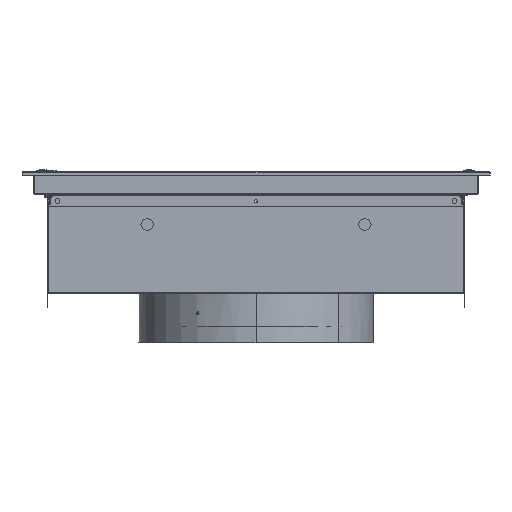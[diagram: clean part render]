
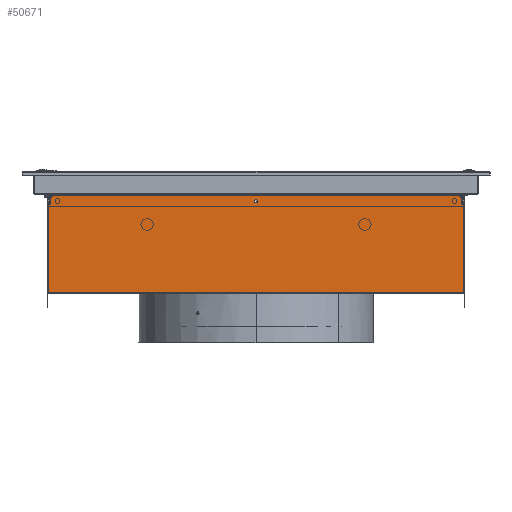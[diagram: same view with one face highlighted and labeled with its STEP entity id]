
A CAD part, left-side view. The second image highlights one B-rep face of the part: STEP entity #50671.
In plain terms, the highlighted planar face has unit normal (-1, 0, 0).
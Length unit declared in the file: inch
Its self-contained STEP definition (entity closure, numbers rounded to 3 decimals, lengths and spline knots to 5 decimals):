
#150 = DIRECTION ( 'NONE',  ( -1., 0., 0. ) ) ;
#936 = CARTESIAN_POINT ( 'NONE',  ( -22.56225, -10.52225, -6.137 ) ) ;
#1143 = DIRECTION ( 'NONE',  ( 0., 0., -1. ) ) ;
#1144 = VERTEX_POINT ( 'NONE', #40206 ) ;
#1209 = VERTEX_POINT ( 'NONE', #21803 ) ;
#1437 = CARTESIAN_POINT ( 'NONE',  ( -22.56225, 10.52225, -1.45921 ) ) ;
#3431 = AXIS2_PLACEMENT_3D ( 'NONE', #19754, #49944, #50220 ) ;
#3512 = EDGE_CURVE ( 'NONE', #45460, #9339, #53923, .T. ) ;
#3573 = LINE ( 'NONE', #33762, #14938 ) ;
#3575 = FACE_OUTER_BOUND ( 'NONE', #22825, .T. ) ;
#3891 = DIRECTION ( 'NONE',  ( 0., 0., -1. ) ) ;
#4131 = CARTESIAN_POINT ( 'NONE',  ( -22.56225, 0.075, -1.5796 ) ) ;
#5158 = VECTOR ( 'NONE', #54394, 39.37008 ) ;
#5358 = EDGE_CURVE ( 'NONE', #48227, #45460, #56699, .T. ) ;
#5460 = DIRECTION ( 'NONE',  ( -1., 0., 0. ) ) ;
#6018 = VERTEX_POINT ( 'NONE', #53090 ) ;
#6365 = DIRECTION ( 'NONE',  ( 0., 0., -1. ) ) ;
#6394 = VERTEX_POINT ( 'NONE', #43232 ) ;
#6458 = VERTEX_POINT ( 'NONE', #48118 ) ;
#6688 = ORIENTED_EDGE ( 'NONE', *, *, #24828, .T. ) ;
#7046 = PLANE ( 'NONE',  #12163 ) ;
#9113 = CIRCLE ( 'NONE', #50435, 0.015 ) ;
#9339 = VERTEX_POINT ( 'NONE', #1437 ) ;
#9668 = CIRCLE ( 'NONE', #17034, 0.015 ) ;
#9848 = ORIENTED_EDGE ( 'NONE', *, *, #46631, .T. ) ;
#9946 = LINE ( 'NONE', #40139, #16849 ) ;
#10129 = LINE ( 'NONE', #936, #5158 ) ;
#10694 = CARTESIAN_POINT ( 'NONE',  ( -22.56225, 0., -1.5046 ) ) ;
#10781 = VERTEX_POINT ( 'NONE', #51064 ) ;
#11036 = VERTEX_POINT ( 'NONE', #37126 ) ;
#11650 = ORIENTED_EDGE ( 'NONE', *, *, #15547, .T. ) ;
#11658 = CARTESIAN_POINT ( 'NONE',  ( -22.56225, 0., 0. ) ) ;
#12091 = EDGE_CURVE ( 'NONE', #27830, #44387, #9668, .T. ) ;
#12163 = AXIS2_PLACEMENT_3D ( 'NONE', #11658, #56216, #42118 ) ;
#12222 = LINE ( 'NONE', #38370, #49372 ) ;
#12793 = EDGE_CURVE ( 'NONE', #15099, #1209, #51025, .T. ) ;
#13140 = CIRCLE ( 'NONE', #21377, 0.015 ) ;
#13375 = DIRECTION ( 'NONE',  ( -1., 0., 0. ) ) ;
#13382 = LINE ( 'NONE', #4131, #53118 ) ;
#14260 = DIRECTION ( 'NONE',  ( 0., 0., 1. ) ) ;
#14608 = AXIS2_PLACEMENT_3D ( 'NONE', #10694, #37690, #6365 ) ;
#14938 = VECTOR ( 'NONE', #34044, 39.37008 ) ;
#15099 = VERTEX_POINT ( 'NONE', #32133 ) ;
#15534 = ORIENTED_EDGE ( 'NONE', *, *, #22654, .T. ) ;
#15547 = EDGE_CURVE ( 'NONE', #34010, #9339, #13140, .T. ) ;
#16849 = VECTOR ( 'NONE', #52809, 39.37008 ) ;
#17020 = EDGE_CURVE ( 'NONE', #1144, #44387, #3573, .T. ) ;
#17034 = AXIS2_PLACEMENT_3D ( 'NONE', #43307, #30336, #3891 ) ;
#17318 = CARTESIAN_POINT ( 'NONE',  ( -22.56225, 10.56225, -6.137 ) ) ;
#17699 = DIRECTION ( 'NONE',  ( 0., 1., 0. ) ) ;
#18873 = CARTESIAN_POINT ( 'NONE',  ( -22.56225, 0.075, -1.5046 ) ) ;
#18889 = CIRCLE ( 'NONE', #53781, 0.015 ) ;
#19601 = ORIENTED_EDGE ( 'NONE', *, *, #17020, .F. ) ;
#19754 = CARTESIAN_POINT ( 'NONE',  ( -22.56225, 0., -1.091 ) ) ;
#19866 = CARTESIAN_POINT ( 'NONE',  ( -22.56225, -10.27664, -1.20739 ) ) ;
#21084 = CARTESIAN_POINT ( 'NONE',  ( -22.56225, 0.075, -1.5796 ) ) ;
#21377 = AXIS2_PLACEMENT_3D ( 'NONE', #52757, #13375, #52451 ) ;
#21475 = ORIENTED_EDGE ( 'NONE', *, *, #27475, .T. ) ;
#21803 = CARTESIAN_POINT ( 'NONE',  ( -22.56225, 0.015, -1.203 ) ) ;
#22408 = EDGE_CURVE ( 'NONE', #6458, #27830, #43910, .T. ) ;
#22654 = EDGE_CURVE ( 'NONE', #50487, #34010, #12222, .T. ) ;
#22825 = EDGE_LOOP ( 'NONE', ( #19601, #37889, #33327, #27210, #6688, #15534, #11650, #40952, #44585, #27156, #50246, #44760, #27843 ) ) ;
#23153 = DIRECTION ( 'NONE',  ( 0., 0., 1. ) ) ;
#23619 = VECTOR ( 'NONE', #32325, 39.37008 ) ;
#24828 = EDGE_CURVE ( 'NONE', #36815, #50487, #9113, .T. ) ;
#25428 = EDGE_CURVE ( 'NONE', #1144, #15099, #40382, .T. ) ;
#26034 = DIRECTION ( 'NONE',  ( 0., 0., -1. ) ) ;
#26699 = EDGE_LOOP ( 'NONE', ( #36059, #9848, #34577, #21475 ) ) ;
#26885 = CARTESIAN_POINT ( 'NONE',  ( -22.56225, -10.50725, -1.45921 ) ) ;
#27156 = ORIENTED_EDGE ( 'NONE', *, *, #54947, .T. ) ;
#27210 = ORIENTED_EDGE ( 'NONE', *, *, #39799, .F. ) ;
#27475 = EDGE_CURVE ( 'NONE', #11036, #54924, #13382, .T. ) ;
#27830 = VERTEX_POINT ( 'NONE', #19866 ) ;
#27843 = ORIENTED_EDGE ( 'NONE', *, *, #12091, .T. ) ;
#29005 = CARTESIAN_POINT ( 'NONE',  ( -22.56225, -10.52225, -6.137 ) ) ;
#30322 = LINE ( 'NONE', #56531, #54505 ) ;
#30336 = DIRECTION ( 'NONE',  ( -1., 0., 0. ) ) ;
#31209 = LINE ( 'NONE', #18873, #47270 ) ;
#31232 = CARTESIAN_POINT ( 'NONE',  ( -22.56225, 10.27664, -1.20739 ) ) ;
#31887 = CARTESIAN_POINT ( 'NONE',  ( -22.56225, -10.26604, -1.203 ) ) ;
#32133 = CARTESIAN_POINT ( 'NONE',  ( -22.56225, 0., -1.204 ) ) ;
#32325 = DIRECTION ( 'NONE',  ( 0., 0.707, 0.707 ) ) ;
#33033 = CARTESIAN_POINT ( 'NONE',  ( -22.56225, 10.26604, -1.203 ) ) ;
#33299 = CARTESIAN_POINT ( 'NONE',  ( -22.56225, 10.52225, -6.137 ) ) ;
#33327 = ORIENTED_EDGE ( 'NONE', *, *, #12793, .T. ) ;
#33762 = CARTESIAN_POINT ( 'NONE',  ( -22.56225, 10.56225, -1.203 ) ) ;
#34010 = VERTEX_POINT ( 'NONE', #42997 ) ;
#34044 = DIRECTION ( 'NONE',  ( 0., -1., 0. ) ) ;
#34577 = ORIENTED_EDGE ( 'NONE', *, *, #52934, .T. ) ;
#34819 = DIRECTION ( 'NONE',  ( 0., 1., 0. ) ) ;
#36059 = ORIENTED_EDGE ( 'NONE', *, *, #41093, .T. ) ;
#36815 = VERTEX_POINT ( 'NONE', #33033 ) ;
#37126 = CARTESIAN_POINT ( 'NONE',  ( -22.56225, -0.075, -1.5796 ) ) ;
#37551 = VECTOR ( 'NONE', #14260, 39.37008 ) ;
#37690 = DIRECTION ( 'NONE',  ( 1., 0., 0. ) ) ;
#37889 = ORIENTED_EDGE ( 'NONE', *, *, #25428, .T. ) ;
#38370 = CARTESIAN_POINT ( 'NONE',  ( -22.56225, 10.27225, -1.203 ) ) ;
#39799 = EDGE_CURVE ( 'NONE', #36815, #1209, #9946, .T. ) ;
#39831 = DIRECTION ( 'NONE',  ( 0., 0., -1. ) ) ;
#40139 = CARTESIAN_POINT ( 'NONE',  ( -22.56225, 10.56225, -1.203 ) ) ;
#40206 = CARTESIAN_POINT ( 'NONE',  ( -22.56225, -0.015, -1.203 ) ) ;
#40295 = CIRCLE ( 'NONE', #14608, 0.075 ) ;
#40382 = CIRCLE ( 'NONE', #3431, 0.113 ) ;
#40952 = ORIENTED_EDGE ( 'NONE', *, *, #3512, .F. ) ;
#41093 = EDGE_CURVE ( 'NONE', #54924, #6394, #31209, .T. ) ;
#41957 = CARTESIAN_POINT ( 'NONE',  ( -22.56225, 0., -1.091 ) ) ;
#42118 = DIRECTION ( 'NONE',  ( 0., 0., -1. ) ) ;
#42997 = CARTESIAN_POINT ( 'NONE',  ( -22.56225, 10.51786, -1.44861 ) ) ;
#43232 = CARTESIAN_POINT ( 'NONE',  ( -22.56225, 0.075, -1.5046 ) ) ;
#43307 = CARTESIAN_POINT ( 'NONE',  ( -22.56225, -10.26604, -1.218 ) ) ;
#43910 = LINE ( 'NONE', #49905, #23619 ) ;
#44387 = VERTEX_POINT ( 'NONE', #31887 ) ;
#44585 = ORIENTED_EDGE ( 'NONE', *, *, #5358, .F. ) ;
#44760 = ORIENTED_EDGE ( 'NONE', *, *, #22408, .T. ) ;
#44878 = CARTESIAN_POINT ( 'NONE',  ( -22.56225, 10.26604, -1.218 ) ) ;
#45460 = VERTEX_POINT ( 'NONE', #33299 ) ;
#46631 = EDGE_CURVE ( 'NONE', #6394, #10781, #40295, .T. ) ;
#47270 = VECTOR ( 'NONE', #23153, 39.37008 ) ;
#48118 = CARTESIAN_POINT ( 'NONE',  ( -22.56225, -10.51786, -1.44861 ) ) ;
#48227 = VERTEX_POINT ( 'NONE', #29005 ) ;
#49372 = VECTOR ( 'NONE', #55935, 39.37008 ) ;
#49905 = CARTESIAN_POINT ( 'NONE',  ( -22.56225, -10.52225, -1.453 ) ) ;
#49944 = DIRECTION ( 'NONE',  ( 1., 0., 0. ) ) ;
#50220 = DIRECTION ( 'NONE',  ( 0., 0., -1. ) ) ;
#50246 = ORIENTED_EDGE ( 'NONE', *, *, #54479, .T. ) ;
#50435 = AXIS2_PLACEMENT_3D ( 'NONE', #44878, #5460, #1143 ) ;
#50487 = VERTEX_POINT ( 'NONE', #31232 ) ;
#50671 = ADVANCED_FACE ( 'Face1', ( #51594, #3575 ), #7046, .F. ) ;
#51025 = CIRCLE ( 'NONE', #55636, 0.113 ) ;
#51064 = CARTESIAN_POINT ( 'NONE',  ( -22.56225, -0.075, -1.5046 ) ) ;
#51163 = DIRECTION ( 'NONE',  ( 0., 0., -1. ) ) ;
#51485 = VECTOR ( 'NONE', #34819, 39.37008 ) ;
#51594 = FACE_BOUND ( 'NONE', #26699, .T. ) ;
#52451 = DIRECTION ( 'NONE',  ( 0., 0., -1. ) ) ;
#52757 = CARTESIAN_POINT ( 'NONE',  ( -22.56225, 10.50725, -1.45921 ) ) ;
#52809 = DIRECTION ( 'NONE',  ( 0., -1., 0. ) ) ;
#52934 = EDGE_CURVE ( 'NONE', #10781, #11036, #30322, .T. ) ;
#53090 = CARTESIAN_POINT ( 'NONE',  ( -22.56225, -10.52225, -1.45921 ) ) ;
#53118 = VECTOR ( 'NONE', #17699, 39.37008 ) ;
#53647 = CARTESIAN_POINT ( 'NONE',  ( -22.56225, 10.52225, -6.137 ) ) ;
#53781 = AXIS2_PLACEMENT_3D ( 'NONE', #26885, #150, #39831 ) ;
#53923 = LINE ( 'NONE', #53647, #37551 ) ;
#54394 = DIRECTION ( 'NONE',  ( 0., 0., 1. ) ) ;
#54479 = EDGE_CURVE ( 'NONE', #6018, #6458, #18889, .T. ) ;
#54505 = VECTOR ( 'NONE', #26034, 39.37008 ) ;
#54924 = VERTEX_POINT ( 'NONE', #21084 ) ;
#54947 = EDGE_CURVE ( 'NONE', #48227, #6018, #10129, .T. ) ;
#55636 = AXIS2_PLACEMENT_3D ( 'NONE', #41957, #55777, #51163 ) ;
#55777 = DIRECTION ( 'NONE',  ( 1., 0., 0. ) ) ;
#55935 = DIRECTION ( 'NONE',  ( 0., 0.707, -0.707 ) ) ;
#56216 = DIRECTION ( 'NONE',  ( 1., 0., 0. ) ) ;
#56531 = CARTESIAN_POINT ( 'NONE',  ( -22.56225, -0.075, -1.5796 ) ) ;
#56699 = LINE ( 'NONE', #17318, #51485 ) ;
